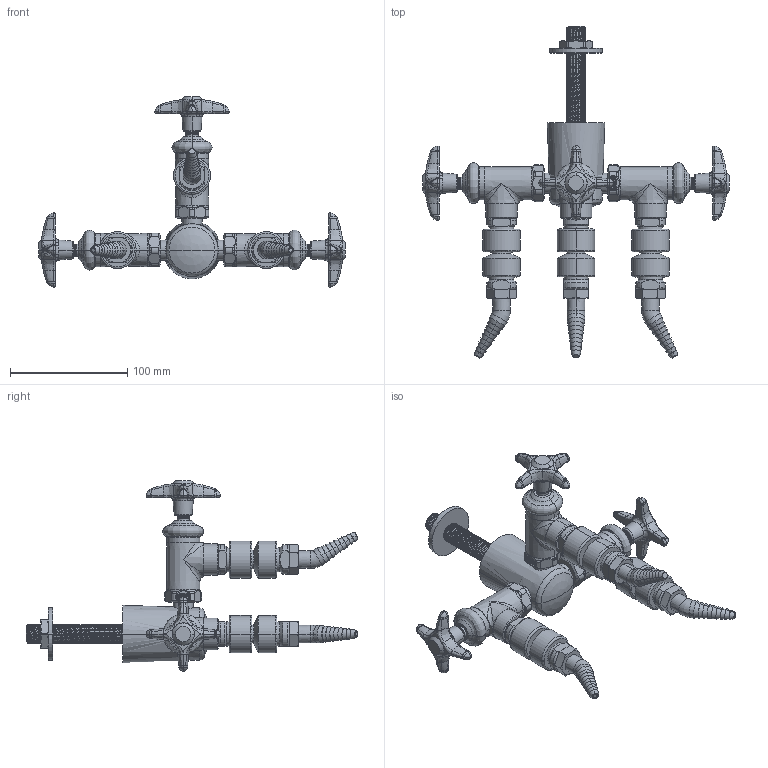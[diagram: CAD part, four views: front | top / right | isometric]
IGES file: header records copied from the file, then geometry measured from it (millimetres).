
Start section:  PTC IGES file: LWV2-C54-30.igs
Global section: file name: LWV2-C54-30.igs; native system: Creo Parametric by PTC Inc.; preprocessor: 2014500; author: usch_engrender; organization: Unknown; date: 20151124.122313; units: inch
Bounding box: 261.52 x 283.24 x 162.47 mm (x, y, z)
Volume: 445744.1 mm3; surface area: 118085 mm2
Topology: 1 solids, 8 shells, 1958 faces, 4555 edges, 2697 vertices
Faces by surface type: bspline 1025, revolution 933
